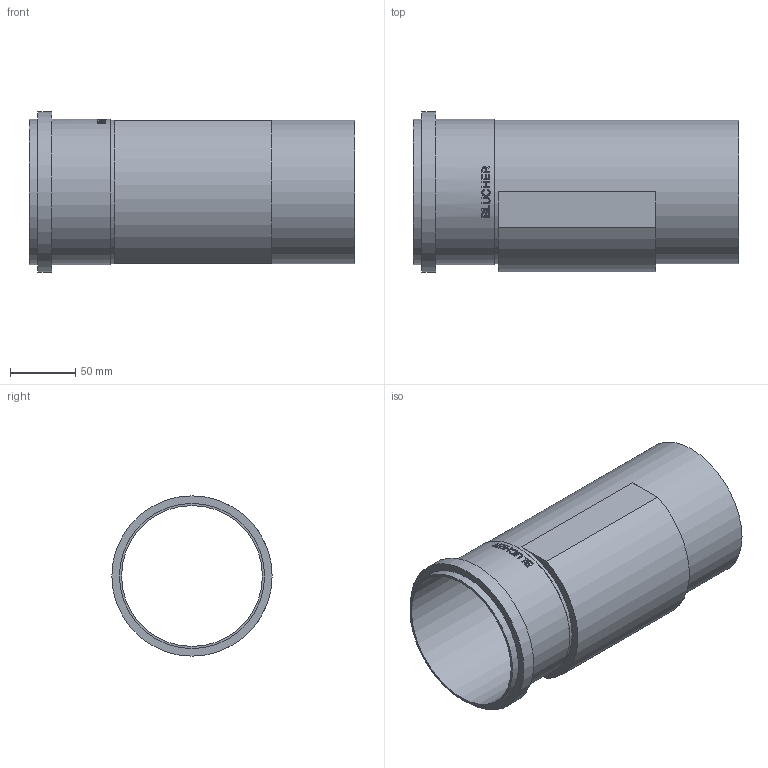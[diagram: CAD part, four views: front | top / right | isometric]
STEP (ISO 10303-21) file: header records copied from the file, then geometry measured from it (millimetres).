
FILE_DESCRIPTION((''),'2;1');
FILE_NAME('I:\WATTS\3D_CAD\3D_CAD_Models\Blucher_Drains\Fittings\Access Fittings\WebsiteFiles\3D\STEP\AP-4-316.stp','2009-12-22T10:27:58',('menesek'),(''),'Autodesk Inventor 2010','Autodesk Inventor 2010','');
FILE_SCHEMA(('AUTOMOTIVE_DESIGN { 1 0 10303 214 1 1 1 1 }'));
Length unit declared in the file: inch
Products named in the file (1): AP-4-316
Bounding box: 249.3 x 122.94 x 122.94 mm (x, y, z)
Volume: 235222.3 mm3; surface area: 180841.1 mm2
Topology: 1 solids, 1 shells, 113 faces, 291 edges, 194 vertices
Faces by surface type: plane 63, bspline 34, cylinder 16
Full cylindrical faces by diameter (mm): 107.95 x1, 109.982 x1, 111.252 x2, 122.936 x1
Entity records: 14022 total; most frequent: CARTESIAN_POINT 11523, ORIENTED_EDGE 572, DIRECTION 382, EDGE_CURVE 286, VERTEX_POINT 194, EDGE_LOOP 134, AXIS2_PLACEMENT_3D 129, VECTOR 124
